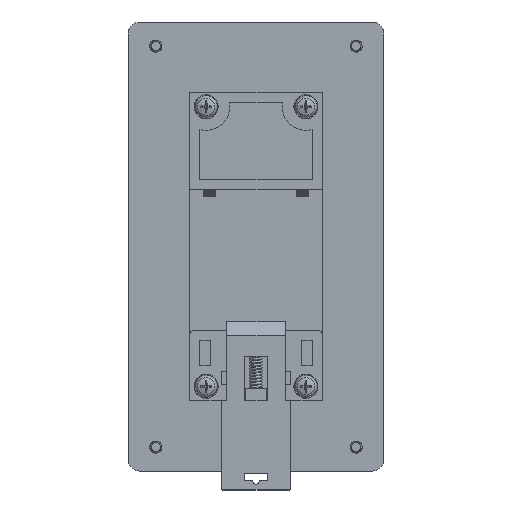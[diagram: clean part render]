
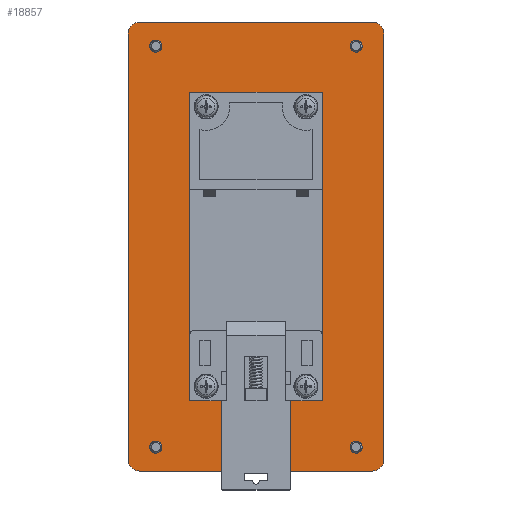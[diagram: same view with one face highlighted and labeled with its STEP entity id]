
A CAD part, top view. The second image highlights one B-rep face of the part: STEP entity #18857.
In plain terms, the highlighted planar face has unit normal (0, 0, 1).
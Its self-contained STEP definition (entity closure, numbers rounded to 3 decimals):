
#339=FACE_BOUND('',#3355,.T.);
#340=FACE_BOUND('',#3356,.T.);
#341=FACE_BOUND('',#3357,.T.);
#342=FACE_BOUND('',#3358,.T.);
#343=FACE_BOUND('',#3359,.T.);
#678=CIRCLE('',#19700,1.5);
#679=CIRCLE('',#19701,1.5);
#682=CIRCLE('',#19705,1.5);
#683=CIRCLE('',#19706,1.5);
#686=CIRCLE('',#19710,1.5);
#688=CIRCLE('',#19713,1.5);
#690=CIRCLE('',#19716,3.);
#692=CIRCLE('',#19720,3.);
#694=CIRCLE('',#19724,3.);
#696=CIRCLE('',#19728,3.);
#777=CIRCLE('',#19953,1.5);
#814=CIRCLE('',#20026,1.5);
#851=CIRCLE('',#20099,1.5);
#857=CIRCLE('',#20111,1.5);
#1361=PLANE('',#20110);
#2202=FACE_OUTER_BOUND('',#3354,.T.);
#3354=EDGE_LOOP('',(#14143,#14144,#14145,#14146,#14147,#14148,#14149,#14150));
#3355=EDGE_LOOP('',(#14151,#14152,#14153,#14154));
#3356=EDGE_LOOP('',(#14155,#14156));
#3357=EDGE_LOOP('',(#14157,#14158));
#3358=EDGE_LOOP('',(#14159,#14160,#14161));
#3359=EDGE_LOOP('',(#14162,#14163,#14164));
#4596=LINE('',#26660,#6499);
#4610=LINE('',#26719,#6513);
#4614=LINE('',#26731,#6517);
#4618=LINE('',#26743,#6521);
#4620=LINE('',#26752,#6523);
#4632=LINE('',#26777,#6535);
#4643=LINE('',#26798,#6546);
#4791=LINE('',#27284,#6694);
#6499=VECTOR('',#21320,106.);
#6513=VECTOR('',#21374,57.8);
#6517=VECTOR('',#21386,106.);
#6521=VECTOR('',#21398,57.8);
#6523=VECTOR('',#21408,33.);
#6535=VECTOR('',#21422,33.);
#6546=VECTOR('',#21435,76.9);
#6694=VECTOR('',#21761,76.9);
#8401=VERTEX_POINT('',#26656);
#8403=VERTEX_POINT('',#26659);
#8406=VERTEX_POINT('',#26666);
#8407=VERTEX_POINT('',#26668);
#8408=VERTEX_POINT('',#26670);
#8412=VERTEX_POINT('',#26679);
#8413=VERTEX_POINT('',#26681);
#8414=VERTEX_POINT('',#26683);
#8418=VERTEX_POINT('',#26692);
#8419=VERTEX_POINT('',#26694);
#8422=VERTEX_POINT('',#26701);
#8423=VERTEX_POINT('',#26703);
#8425=VERTEX_POINT('',#26709);
#8428=VERTEX_POINT('',#26716);
#8429=VERTEX_POINT('',#26721);
#8432=VERTEX_POINT('',#26728);
#8433=VERTEX_POINT('',#26733);
#8436=VERTEX_POINT('',#26740);
#8437=VERTEX_POINT('',#26748);
#8439=VERTEX_POINT('',#26751);
#8450=VERTEX_POINT('',#26774);
#8451=VERTEX_POINT('',#26776);
#10242=EDGE_CURVE('',#8401,#8403,#4596,.T.);
#10246=EDGE_CURVE('',#8407,#8406,#678,.T.);
#10247=EDGE_CURVE('',#8408,#8407,#679,.T.);
#10252=EDGE_CURVE('',#8413,#8412,#682,.T.);
#10253=EDGE_CURVE('',#8414,#8413,#683,.T.);
#10258=EDGE_CURVE('',#8419,#8418,#686,.T.);
#10262=EDGE_CURVE('',#8423,#8422,#688,.T.);
#10265=EDGE_CURVE('',#8403,#8425,#690,.T.);
#10270=EDGE_CURVE('',#8425,#8428,#4610,.T.);
#10271=EDGE_CURVE('',#8428,#8429,#692,.T.);
#10276=EDGE_CURVE('',#8429,#8432,#4614,.T.);
#10277=EDGE_CURVE('',#8432,#8433,#694,.T.);
#10282=EDGE_CURVE('',#8433,#8436,#4618,.T.);
#10283=EDGE_CURVE('',#8436,#8401,#696,.T.);
#10286=EDGE_CURVE('',#8439,#8437,#4620,.T.);
#10298=EDGE_CURVE('',#8451,#8450,#4632,.T.);
#10309=EDGE_CURVE('',#8437,#8451,#4643,.T.);
#10485=EDGE_CURVE('',#8450,#8439,#4791,.T.);
#10676=EDGE_CURVE('',#8422,#8423,#777,.T.);
#10753=EDGE_CURVE('',#8406,#8408,#814,.T.);
#10830=EDGE_CURVE('',#8412,#8414,#851,.T.);
#10836=EDGE_CURVE('',#8418,#8419,#857,.T.);
#14143=ORIENTED_EDGE('',*,*,#10283,.F.);
#14144=ORIENTED_EDGE('',*,*,#10282,.F.);
#14145=ORIENTED_EDGE('',*,*,#10277,.F.);
#14146=ORIENTED_EDGE('',*,*,#10276,.F.);
#14147=ORIENTED_EDGE('',*,*,#10271,.F.);
#14148=ORIENTED_EDGE('',*,*,#10270,.F.);
#14149=ORIENTED_EDGE('',*,*,#10265,.F.);
#14150=ORIENTED_EDGE('',*,*,#10242,.F.);
#14151=ORIENTED_EDGE('',*,*,#10309,.T.);
#14152=ORIENTED_EDGE('',*,*,#10298,.T.);
#14153=ORIENTED_EDGE('',*,*,#10485,.T.);
#14154=ORIENTED_EDGE('',*,*,#10286,.T.);
#14155=ORIENTED_EDGE('',*,*,#10676,.T.);
#14156=ORIENTED_EDGE('',*,*,#10262,.T.);
#14157=ORIENTED_EDGE('',*,*,#10836,.T.);
#14158=ORIENTED_EDGE('',*,*,#10258,.T.);
#14159=ORIENTED_EDGE('',*,*,#10830,.T.);
#14160=ORIENTED_EDGE('',*,*,#10253,.T.);
#14161=ORIENTED_EDGE('',*,*,#10252,.T.);
#14162=ORIENTED_EDGE('',*,*,#10753,.T.);
#14163=ORIENTED_EDGE('',*,*,#10247,.T.);
#14164=ORIENTED_EDGE('',*,*,#10246,.T.);
#18857=ADVANCED_FACE('',(#2202,#339,#340,#341,#342,#343),#1361,.T.);
#19700=AXIS2_PLACEMENT_3D('',#26669,#21326,#21327);
#19701=AXIS2_PLACEMENT_3D('',#26671,#21328,#21329);
#19705=AXIS2_PLACEMENT_3D('',#26682,#21338,#21339);
#19706=AXIS2_PLACEMENT_3D('',#26684,#21340,#21341);
#19710=AXIS2_PLACEMENT_3D('',#26695,#21350,#21351);
#19713=AXIS2_PLACEMENT_3D('',#26704,#21358,#21359);
#19716=AXIS2_PLACEMENT_3D('',#26710,#21365,#21366);
#19720=AXIS2_PLACEMENT_3D('',#26722,#21377,#21378);
#19724=AXIS2_PLACEMENT_3D('',#26734,#21389,#21390);
#19728=AXIS2_PLACEMENT_3D('',#26745,#21401,#21402);
#19953=AXIS2_PLACEMENT_3D('',#29261,#22134,#22135);
#20026=AXIS2_PLACEMENT_3D('',#29605,#22296,#22297);
#20099=AXIS2_PLACEMENT_3D('',#29949,#22458,#22459);
#20110=AXIS2_PLACEMENT_3D('',#29965,#22480,#22481);
#20111=AXIS2_PLACEMENT_3D('',#29966,#22482,#22483);
#21320=DIRECTION('',(0.,1.,0.));
#21326=DIRECTION('center_axis',(0.,0.,
-1.));
#21327=DIRECTION('ref_axis',(-1.,0.,0.));
#21328=DIRECTION('center_axis',(0.,0.,
-1.));
#21329=DIRECTION('ref_axis',(-1.,0.,0.));
#21338=DIRECTION('center_axis',(0.,0.,
-1.));
#21339=DIRECTION('ref_axis',(-1.,0.,0.));
#21340=DIRECTION('center_axis',(0.,0.,
-1.));
#21341=DIRECTION('ref_axis',(-1.,0.,0.));
#21350=DIRECTION('center_axis',(0.,0.,
-1.));
#21351=DIRECTION('ref_axis',(-1.,0.,0.));
#21358=DIRECTION('center_axis',(0.,0.,
-1.));
#21359=DIRECTION('ref_axis',(-1.,0.,0.));
#21365=DIRECTION('center_axis',(0.,0.,
-1.));
#21366=DIRECTION('ref_axis',(-0.707,0.707,0.));
#21374=DIRECTION('',(1.,0.,0.));
#21377=DIRECTION('center_axis',(0.,0.,
-1.));
#21378=DIRECTION('ref_axis',(0.707,0.707,0.));
#21386=DIRECTION('',(0.,-1.,0.));
#21389=DIRECTION('center_axis',(0.,0.,
-1.));
#21390=DIRECTION('ref_axis',(0.707,-0.707,0.));
#21398=DIRECTION('',(-1.,0.,0.));
#21401=DIRECTION('center_axis',(0.,0.,
-1.));
#21402=DIRECTION('ref_axis',(-0.707,-0.707,0.));
#21408=DIRECTION('',(1.,0.,0.));
#21422=DIRECTION('',(-1.,0.,0.));
#21435=DIRECTION('',(0.,-1.,0.));
#21761=DIRECTION('',(0.,1.,0.));
#22134=DIRECTION('center_axis',(0.,0.,
-1.));
#22135=DIRECTION('ref_axis',(0.083,0.997,0.));
#22296=DIRECTION('center_axis',(0.,0.,
-1.));
#22297=DIRECTION('ref_axis',(0.083,0.997,0.));
#22458=DIRECTION('center_axis',(0.,0.,
-1.));
#22459=DIRECTION('ref_axis',(0.083,0.997,0.));
#22480=DIRECTION('center_axis',(0.,0.,
1.));
#22481=DIRECTION('ref_axis',(1.,0.,0.));
#22482=DIRECTION('center_axis',(0.,0.,
-1.));
#22483=DIRECTION('ref_axis',(0.083,0.997,0.));
#26656=CARTESIAN_POINT('',(-31.9,-52.991,0.));
#26659=CARTESIAN_POINT('',(-31.9,53.009,0.));
#26660=CARTESIAN_POINT('',(-31.9,-55.991,0.));
#26666=CARTESIAN_POINT('',(24.975,-51.491,0.));
#26668=CARTESIAN_POINT('',(26.5,-49.991,0.));
#26669=CARTESIAN_POINT('Origin',(25.,-49.991,0.));
#26670=CARTESIAN_POINT('',(24.975,-48.492,0.));
#26671=CARTESIAN_POINT('Origin',(25.,-49.991,0.));
#26679=CARTESIAN_POINT('',(24.975,48.509,0.));
#26681=CARTESIAN_POINT('',(26.5,50.009,0.));
#26682=CARTESIAN_POINT('Origin',(25.,50.009,0.));
#26683=CARTESIAN_POINT('',(24.975,51.508,0.));
#26684=CARTESIAN_POINT('Origin',(25.,50.009,0.));
#26692=CARTESIAN_POINT('',(-24.975,51.508,0.));
#26694=CARTESIAN_POINT('',(-24.975,48.509,0.));
#26695=CARTESIAN_POINT('Origin',(-25.,50.009,0.));
#26701=CARTESIAN_POINT('',(-24.975,-48.492,0.));
#26703=CARTESIAN_POINT('',(-24.975,-51.491,0.));
#26704=CARTESIAN_POINT('Origin',(-25.,-49.991,0.));
#26709=CARTESIAN_POINT('',(-28.9,56.009,0.));
#26710=CARTESIAN_POINT('Origin',(-28.9,53.009,0.));
#26716=CARTESIAN_POINT('',(28.9,56.009,0.));
#26719=CARTESIAN_POINT('',(-31.9,56.009,0.));
#26721=CARTESIAN_POINT('',(31.9,53.009,0.));
#26722=CARTESIAN_POINT('Origin',(28.9,53.009,0.));
#26728=CARTESIAN_POINT('',(31.9,-52.991,0.));
#26731=CARTESIAN_POINT('',(31.9,56.009,0.));
#26733=CARTESIAN_POINT('',(28.9,-55.991,0.));
#26734=CARTESIAN_POINT('Origin',(28.9,-52.991,0.));
#26740=CARTESIAN_POINT('',(-28.9,-55.991,0.));
#26743=CARTESIAN_POINT('',(31.9,-55.991,0.));
#26745=CARTESIAN_POINT('Origin',(-28.9,-52.991,0.));
#26748=CARTESIAN_POINT('',(16.5,38.45,0.));
#26751=CARTESIAN_POINT('',(-16.5,38.45,0.));
#26752=CARTESIAN_POINT('',(-8.25,38.45,0.));
#26774=CARTESIAN_POINT('',(-16.5,-38.45,0.));
#26776=CARTESIAN_POINT('',(16.5,-38.45,0.));
#26777=CARTESIAN_POINT('',(8.25,-38.45,0.));
#26798=CARTESIAN_POINT('',(16.5,19.229,0.));
#27284=CARTESIAN_POINT('',(-16.5,-19.221,0.));
#29261=CARTESIAN_POINT('Origin',(-24.95,-49.991,0.));
#29605=CARTESIAN_POINT('Origin',(24.95,-49.991,0.));
#29949=CARTESIAN_POINT('Origin',(24.95,50.009,0.));
#29965=CARTESIAN_POINT('Origin',(0.,0.009,
0.));
#29966=CARTESIAN_POINT('Origin',(-24.95,50.009,0.));
